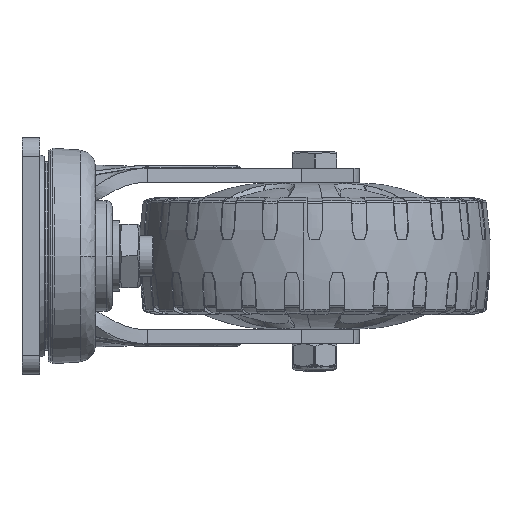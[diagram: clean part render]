
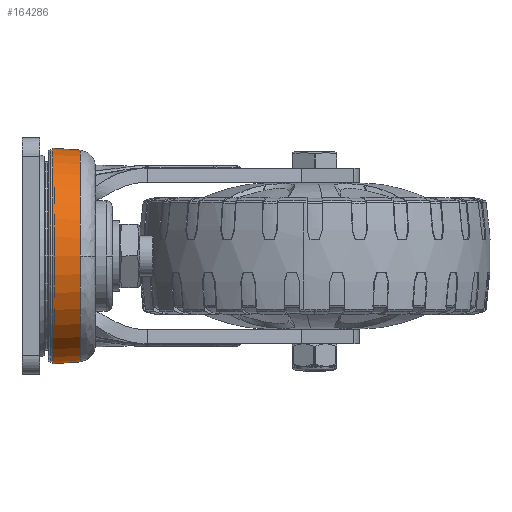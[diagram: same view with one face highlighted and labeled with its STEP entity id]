
A CAD part, left-side view. The second image highlights one B-rep face of the part: STEP entity #164286.
In plain terms, the highlighted conical face has half-angle 3.9 degrees and reference radius 45.194 mm.
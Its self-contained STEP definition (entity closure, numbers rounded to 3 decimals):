
#11330 = ORIENTED_EDGE ( 'NONE', *, *, #213404, .T. ) ;
#14317 = CARTESIAN_POINT ( 'NONE',  ( 0., 18.339, -46. ) ) ;
#17331 = ORIENTED_EDGE ( 'NONE', *, *, #22525, .T. ) ;
#17894 = EDGE_CURVE ( 'NONE', #107151, #38909, #114241, .T. ) ;
#22525 = EDGE_CURVE ( 'NONE', #145194, #153459, #112122, .T. ) ;
#22838 = VECTOR ( 'NONE', #224597, 1000. ) ;
#23546 = DIRECTION ( 'NONE',  ( 0., 1., 0. ) ) ;
#24349 = VERTEX_POINT ( 'NONE', #34985 ) ;
#28521 = CARTESIAN_POINT ( 'NONE',  ( 0., 6.524, 0. ) ) ;
#30017 = CIRCLE ( 'NONE', #224954, 46. ) ;
#30253 = CIRCLE ( 'NONE', #183122, 45.195 ) ;
#32359 = DIRECTION ( 'NONE',  ( 0., 1., 0. ) ) ;
#34985 = CARTESIAN_POINT ( 'NONE',  ( -45.195, 6.524, 0. ) ) ;
#38909 = VERTEX_POINT ( 'NONE', #14317 ) ;
#64849 = ORIENTED_EDGE ( 'NONE', *, *, #161278, .T. ) ;
#65567 = AXIS2_PLACEMENT_3D ( 'NONE', #28521, #82320, #100316 ) ;
#67414 = CARTESIAN_POINT ( 'NONE',  ( 0., 6.524, -45.195 ) ) ;
#70038 = VECTOR ( 'NONE', #74750, 1000. ) ;
#74750 = DIRECTION ( 'NONE',  ( 0., 0.998, -0.068 ) ) ;
#78527 = CARTESIAN_POINT ( 'NONE',  ( 0., 6.524, 45.195 ) ) ;
#82320 = DIRECTION ( 'NONE',  ( 0., 1., 0. ) ) ;
#88954 = DIRECTION ( 'NONE',  ( 0., 1., 0. ) ) ;
#96513 = EDGE_LOOP ( 'NONE', ( #177354, #11330, #64849, #17331, #206619 ) ) ;
#97695 = CARTESIAN_POINT ( 'NONE',  ( 0., 6.524, 0. ) ) ;
#100316 = DIRECTION ( 'NONE',  ( 0., 0., 1. ) ) ;
#107151 = VERTEX_POINT ( 'NONE', #67414 ) ;
#112122 = LINE ( 'NONE', #78527, #22838 ) ;
#114241 = LINE ( 'NONE', #166926, #70038 ) ;
#135961 = CARTESIAN_POINT ( 'NONE',  ( 0., 6.524, 45.195 ) ) ;
#142159 = CONICAL_SURFACE ( 'NONE', #65567, 45.195, 0.068 ) ;
#145194 = VERTEX_POINT ( 'NONE', #135961 ) ;
#145235 = DIRECTION ( 'NONE',  ( 1., 0., 0. ) ) ;
#153459 = VERTEX_POINT ( 'NONE', #236884 ) ;
#154007 = EDGE_CURVE ( 'NONE', #38909, #153459, #30017, .T. ) ;
#155394 = FACE_OUTER_BOUND ( 'NONE', #96513, .T. ) ;
#161278 = EDGE_CURVE ( 'NONE', #24349, #145194, #30253, .T. ) ;
#164286 = ADVANCED_FACE ( 'NONE', ( #155394 ), #142159, .T. ) ;
#166926 = CARTESIAN_POINT ( 'NONE',  ( 0., 6.524, -45.195 ) ) ;
#177354 = ORIENTED_EDGE ( 'NONE', *, *, #17894, .F. ) ;
#179396 = AXIS2_PLACEMENT_3D ( 'NONE', #97695, #23546, #188666 ) ;
#183122 = AXIS2_PLACEMENT_3D ( 'NONE', #215498, #32359, #197448 ) ;
#183490 = CARTESIAN_POINT ( 'NONE',  ( 0., 18.339, 0. ) ) ;
#188666 = DIRECTION ( 'NONE',  ( 1., 0., 0. ) ) ;
#197448 = DIRECTION ( 'NONE',  ( 1., 0., 0. ) ) ;
#206619 = ORIENTED_EDGE ( 'NONE', *, *, #154007, .F. ) ;
#210074 = CIRCLE ( 'NONE', #179396, 45.195 ) ;
#213404 = EDGE_CURVE ( 'NONE', #107151, #24349, #210074, .T. ) ;
#215498 = CARTESIAN_POINT ( 'NONE',  ( 0., 6.524, 0. ) ) ;
#224597 = DIRECTION ( 'NONE',  ( 0., 0.998, 0.068 ) ) ;
#224954 = AXIS2_PLACEMENT_3D ( 'NONE', #183490, #88954, #145235 ) ;
#236884 = CARTESIAN_POINT ( 'NONE',  ( 0., 18.339, 46. ) ) ;
